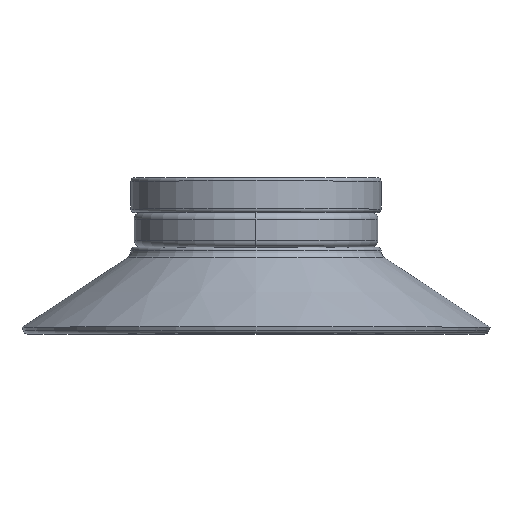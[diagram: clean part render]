
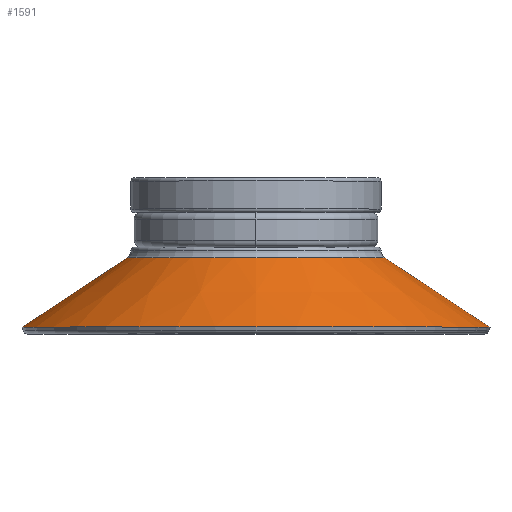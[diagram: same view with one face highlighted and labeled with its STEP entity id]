
A CAD part, top view. The second image highlights one B-rep face of the part: STEP entity #1591.
In plain terms, the highlighted conical face has half-angle 56.533 degrees and reference radius 7.417 mm.
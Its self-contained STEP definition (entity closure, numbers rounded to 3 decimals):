
#235 = EDGE_CURVE ( 'NONE', #2241, #785, #362, .T. ) ;
#291 = EDGE_LOOP ( 'NONE', ( #1453, #2198, #2399, #2505 ) ) ;
#362 = CIRCLE ( 'NONE', #2715, 13.47 ) ;
#508 = CARTESIAN_POINT ( 'NONE',  ( 0., -4.704, 0. ) ) ;
#656 = LINE ( 'NONE', #1823, #1911 ) ;
#723 = CONICAL_SURFACE ( 'NONE', #1920, 7.417, 0.987 ) ;
#746 = CARTESIAN_POINT ( 'NONE',  ( 13.47, -8.706, 0. ) ) ;
#766 = DIRECTION ( 'NONE',  ( 1., 0., 0. ) ) ;
#785 = VERTEX_POINT ( 'NONE', #746 ) ;
#911 = CARTESIAN_POINT ( 'NONE',  ( -7.417, -4.704, 0. ) ) ;
#1038 = VECTOR ( 'NONE', #1341, 1000. ) ;
#1151 = DIRECTION ( 'NONE',  ( 0., 1., 0. ) ) ;
#1158 = AXIS2_PLACEMENT_3D ( 'NONE', #508, #1151, #2646 ) ;
#1170 = CARTESIAN_POINT ( 'NONE',  ( 7.417, -4.704, 0. ) ) ;
#1177 = CARTESIAN_POINT ( 'NONE',  ( 0., -4.704, 0. ) ) ;
#1196 = DIRECTION ( 'NONE',  ( 0., 1., 0. ) ) ;
#1341 = DIRECTION ( 'NONE',  ( -0.834, -0.551, 0. ) ) ;
#1363 = EDGE_CURVE ( 'NONE', #2572, #2241, #1688, .T. ) ;
#1414 = CIRCLE ( 'NONE', #1158, 7.417 ) ;
#1453 = ORIENTED_EDGE ( 'NONE', *, *, #2472, .F. ) ;
#1547 = EDGE_CURVE ( 'NONE', #2499, #785, #656, .T. ) ;
#1591 = ADVANCED_FACE ( 'NONE', ( #2048 ), #723, .T. ) ;
#1688 = LINE ( 'NONE', #911, #1038 ) ;
#1823 = CARTESIAN_POINT ( 'NONE',  ( 7.417, -4.704, 0. ) ) ;
#1863 = DIRECTION ( 'NONE',  ( 0.834, -0.551, 0. ) ) ;
#1911 = VECTOR ( 'NONE', #1863, 1000. ) ;
#1920 = AXIS2_PLACEMENT_3D ( 'NONE', #1177, #2698, #766 ) ;
#2011 = CARTESIAN_POINT ( 'NONE',  ( -7.417, -4.704, 0. ) ) ;
#2048 = FACE_OUTER_BOUND ( 'NONE', #291, .T. ) ;
#2198 = ORIENTED_EDGE ( 'NONE', *, *, #1363, .T. ) ;
#2241 = VERTEX_POINT ( 'NONE', #2534 ) ;
#2399 = ORIENTED_EDGE ( 'NONE', *, *, #235, .T. ) ;
#2472 = EDGE_CURVE ( 'NONE', #2572, #2499, #1414, .T. ) ;
#2486 = CARTESIAN_POINT ( 'NONE',  ( 0., -8.706, 0. ) ) ;
#2499 = VERTEX_POINT ( 'NONE', #1170 ) ;
#2505 = ORIENTED_EDGE ( 'NONE', *, *, #1547, .F. ) ;
#2534 = CARTESIAN_POINT ( 'NONE',  ( -13.47, -8.706, 0. ) ) ;
#2572 = VERTEX_POINT ( 'NONE', #2011 ) ;
#2646 = DIRECTION ( 'NONE',  ( -1., 0., 0. ) ) ;
#2692 = DIRECTION ( 'NONE',  ( -1., 0., 0. ) ) ;
#2698 = DIRECTION ( 'NONE',  ( 0., -1., 0. ) ) ;
#2715 = AXIS2_PLACEMENT_3D ( 'NONE', #2486, #1196, #2692 ) ;
